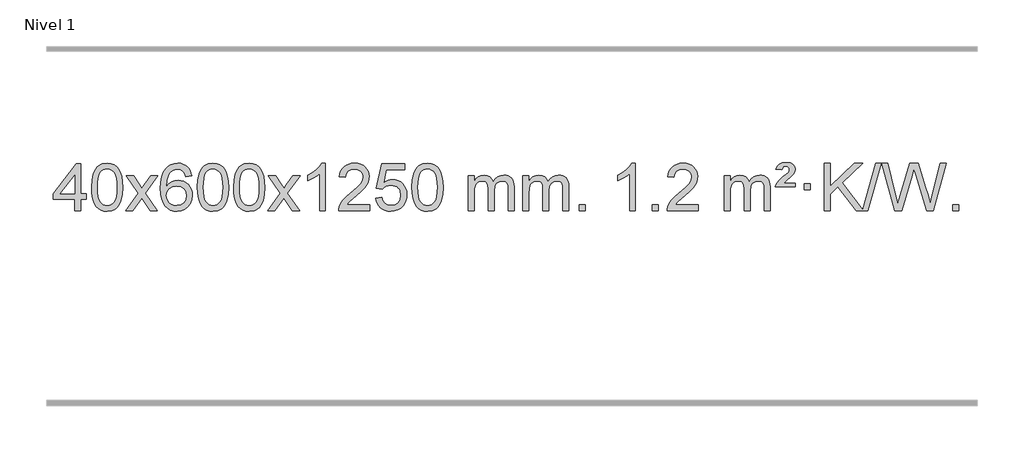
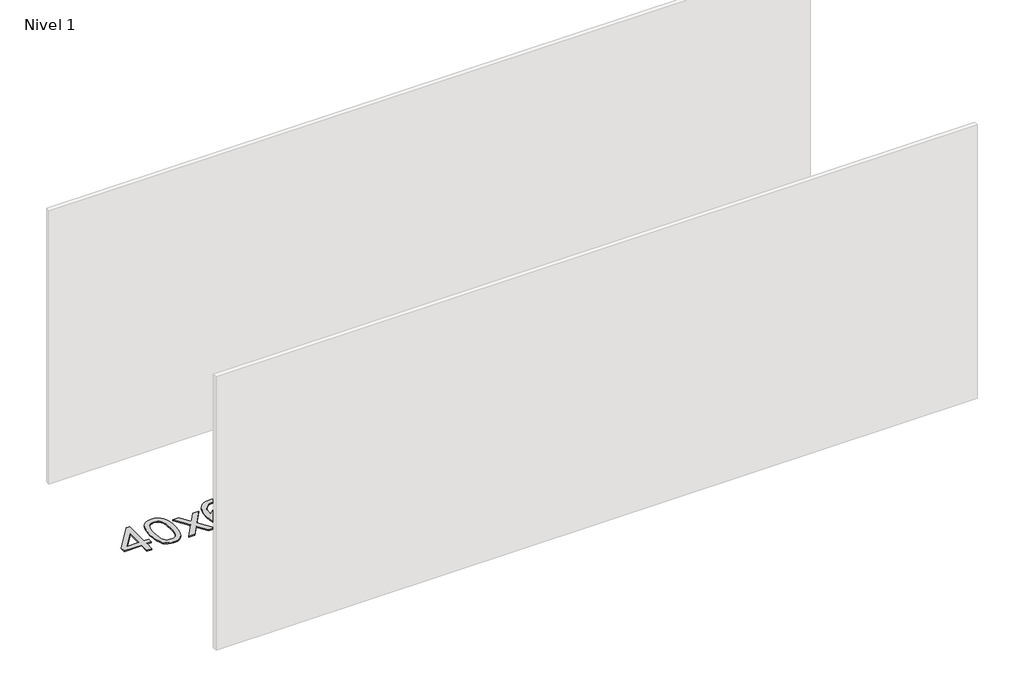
# One storey, part 6 of 6: 1 proxy.
"""IFC4 building model written with IfcOpenShell, lengths in millimetres."""

import ifcopenshell
import ifcopenshell.guid

model = None  # the IFC model being written
_history = None  # IfcOwnerHistory: only IFC2X3 demands one
_inside = {}  # id of a spatial element -> (the spatial element, [elements in it])
_under = {}  # id of a project, library or spatial element -> (it, [spatial elements below it])
_declared = {}  # id of a project -> (the project, [libraries it declares])
_typed = {}  # id of a type object -> (the type object, [elements of that type])
_made_of = {}  # id of a material, layer set ... -> (it, [elements and type objects made of it])


def new_model(schema):
    """Start an empty IFC model of exactly this schema.

    Asked for "IFC4X3", IfcOpenShell would pick the latest addendum, in which some entities
    have other attributes; the version numbers below select the first issue.
    IFC2X3 requires an IfcOwnerHistory on every rooted entity: one is made here for all.
    """
    global model, _history
    if schema == "IFC4X3":
        model = ifcopenshell.file(schema_version=(4, 3, 0, 0))
    else:
        model = ifcopenshell.file(schema=schema)
    _inside.clear()
    _under.clear()
    _declared.clear()
    _typed.clear()
    _made_of.clear()
    _history = None
    if model.schema == "IFC2X3":
        org = make("IfcOrganization", Name="unknown")
        user = make(
            "IfcPersonAndOrganization",
            ThePerson=make("IfcPerson", FamilyName="unknown"),
            TheOrganization=org,
        )
        app = make(
            "IfcApplication",
            ApplicationDeveloper=org,
            Version="unknown",
            ApplicationFullName="unknown",
            ApplicationIdentifier="unknown",
        )
        _history = make(
            "IfcOwnerHistory",
            OwningUser=user,
            OwningApplication=app,
            ChangeAction="ADDED",
            CreationDate=0,
        )
    return model


def make(cls, **values):
    """One entity of the class cls with the attributes given. An attribute that is None is left unset."""
    return model.create_entity(
        cls, **{name: value for name, value in values.items() if value is not None}
    )


def rooted(cls, **values):
    """An entity with a GlobalId (a new one), such as an element, a storey or a relation."""
    return make(cls, GlobalId=ifcopenshell.guid.new(), OwnerHistory=_history, **values)


def si_unit(unit_type, name, prefix=None):
    """IfcSIUnit, for example si_unit("LENGTHUNIT", "METRE", prefix="MILLI")."""
    return make("IfcSIUnit", UnitType=unit_type, Prefix=prefix, Name=name)


def assignment(units):
    """IfcUnitAssignment: the units of a project."""
    return None if units is None else make("IfcUnitAssignment", Units=units)


def point(xyz):
    """IfcCartesianPoint."""
    return None if xyz is None else make("IfcCartesianPoint", Coordinates=xyz)


def direction(xyz):
    """IfcDirection."""
    return None if xyz is None else make("IfcDirection", DirectionRatios=xyz)


def frame(location, z_axis=None, x_axis=None):
    """IfcAxis2Placement3D, a coordinate frame: its origin and axes. An axis left out is left unset."""
    return make(
        "IfcAxis2Placement3D",
        Location=point(location),
        Axis=direction(z_axis),
        RefDirection=direction(x_axis),
    )


def origin():
    """The frame at (0, 0, 0) with its axes left unset."""
    return frame((0.0, 0.0, 0.0))


def origin_with_axes():
    """The frame at (0, 0, 0) with the z axis (0, 0, 1) and the x axis (1, 0, 0) written out."""
    return frame((0.0, 0.0, 0.0), z_axis=(0.0, 0.0, 1.0), x_axis=(1.0, 0.0, 0.0))


def place(relative_to, where):
    """IfcLocalPlacement: puts the frame where relative to a parent placement (None: the world)."""
    return make(
        "IfcLocalPlacement", PlacementRelTo=relative_to, RelativePlacement=where
    )


def context(
    kind, dimensions, precision=None, world=None, true_north=None, identifier=None
):
    """IfcGeometricRepresentationContext, for example the 3D "Model" context."""
    return make(
        "IfcGeometricRepresentationContext",
        ContextIdentifier=identifier,
        ContextType=kind,
        CoordinateSpaceDimension=dimensions,
        Precision=precision,
        WorldCoordinateSystem=world,
        TrueNorth=true_north,
    )


def project(units=None, contexts=None):
    """IfcProject with its units and contexts."""
    return rooted(
        "IfcProject",
        Name="project",
        RepresentationContexts=contexts,
        UnitsInContext=assignment(units),
    )


def spatial(cls, under=None, at=None, **own):
    """A site, building, storey or space (cls), placed at a placement, below another one or the project."""
    s = rooted(cls, ObjectPlacement=at, **own)
    if under is not None:
        _under.setdefault(under.id(), (under, []))[1].append(s)
    return s


def polyline(points):
    """IfcPolyline through the points."""
    return make("IfcPolyline", Points=[point(p) for p in points])


def outline(outer, holes=None, kind="AREA"):
    """IfcArbitraryClosedProfileDef: a profile drawn as a closed curve; with holes, ...WithVoids."""
    if holes is None:
        return make("IfcArbitraryClosedProfileDef", ProfileType=kind, OuterCurve=outer)
    return make(
        "IfcArbitraryProfileDefWithVoids",
        ProfileType=kind,
        OuterCurve=outer,
        InnerCurves=holes,
    )


def extrude(swept, where, along, depth):
    """IfcExtrudedAreaSolid: the profile swept, set in the frame where, extruded along a direction by depth."""
    return make(
        "IfcExtrudedAreaSolid",
        SweptArea=swept,
        Position=where,
        ExtrudedDirection=direction(along),
        Depth=depth,
    )


def shape(context_of_items, identifier, shape_type, items):
    """IfcShapeRepresentation: the items that make up one representation, for example the "Body"."""
    return make(
        "IfcShapeRepresentation",
        ContextOfItems=context_of_items,
        RepresentationIdentifier=identifier,
        RepresentationType=shape_type,
        Items=items,
    )


def made_of(thing, what):
    """Note that an element or type object is made of a material, layer set ...; save() writes the relation."""
    if what is not None:
        _made_of.setdefault(what.id(), (what, []))[1].append(thing)
    return thing


def element(
    cls,
    number,
    at=None,
    inside=None,
    cuts=None,
    type_object=None,
    material=None,
    context=None,
    identifier="Body",
    shape_type=None,
    held_by="IfcProductDefinitionShape",
    body=None,
    shapes=None,
    **own,
):
    """One element of the class cls, such as IfcWall. Its Tag is "e" and its number.

    at: its placement. inside: the storey or other place that contains it. cuts: it is an
    opening in that element (IfcRelVoidsElement). A single representation is given by context,
    identifier, shape_type and body (its items); several are given by shapes. held_by: the class
    of the entity that holds the representations. save() writes the other relations.
    """
    e = rooted(cls, Tag="e%d" % number, ObjectPlacement=at, **own)
    if body is not None:
        shapes = [shape(context, identifier, shape_type, body)]
    if shapes is not None:
        e.Representation = make(held_by, Representations=shapes)
    if inside is not None:
        _inside.setdefault(inside.id(), (inside, []))[1].append(e)
    if cuts is not None:
        rooted(
            "IfcRelVoidsElement", RelatingBuildingElement=cuts, RelatedOpeningElement=e
        )
    if type_object is not None:
        _typed.setdefault(type_object.id(), (type_object, []))[1].append(e)
    return made_of(e, material)


def aggregate(whole, parts):
    """IfcRelAggregates: a whole, such as a stair, and the parts it consists of."""
    return rooted("IfcRelAggregates", RelatingObject=whole, RelatedObjects=parts)


def save(model, path):
    """Write the relations noted so far, then the file.

    IfcRelAggregates (storeys below a building ...), IfcRelContainedInSpatialStructure (elements
    in a storey), IfcRelDefinesByType, IfcRelAssociatesMaterial and IfcRelDeclares: one each for
    every whole, place, type object, material and project.
    """
    for whole, parts in _under.values():
        aggregate(whole, parts)
    for where, things in _inside.values():
        rooted(
            "IfcRelContainedInSpatialStructure",
            RelatedElements=things,
            RelatingStructure=where,
        )
    for kind, things in _typed.values():
        rooted("IfcRelDefinesByType", RelatedObjects=things, RelatingType=kind)
    for what, things in _made_of.values():
        rooted("IfcRelAssociatesMaterial", RelatedObjects=things, RelatingMaterial=what)
    for by, libraries in _declared.values():
        rooted("IfcRelDeclares", RelatingContext=by, RelatedDefinitions=libraries)
    model.write(path)


model = new_model("IFC4")

# Units and contexts
model_context = context("Model", 3, world=origin())
ifc_project = project(units=[si_unit("LENGTHUNIT", "METRE", prefix="MILLI")], contexts=[model_context])

# Site, building, storey
site = spatial("IfcSite", under=ifc_project)
building = spatial("IfcBuilding", under=site)
storey = spatial("IfcBuildingStorey", under=building, Name="Nivel 1", Elevation=0.0)

# Proxy
placement = place(None, origin())
element("IfcBuildingElementProxy", 1, Name="Texto de modelo 1", ObjectType="Texto de modelo 1", at=placement, inside=storey, context=model_context, shape_type="SweptSolid", body=[
    extrude(outline(polyline([(-6292.9282065, 2608.420547), (-6292.9282065, 2702.5983378), (-6475.0052686, 2702.5983378), (-6475.0052686, 2752.8264928), (-6280.3711677, 3003.9672682), (-6242.7000514, 3003.9672682), (-6242.7000514, 2752.8264928), (-6192.4718963, 2752.8264928), (-6192.4718963, 2702.5983378), (-6242.7000514, 2702.5983378), (-6242.7000514, 2608.420547), (-6292.9282065, 2608.420547)]), holes=[polyline([(-6292.9282065, 2752.8264928), (-6292.9282065, 2908.0236439), (-6413.2010934, 2752.8264928), (-6292.9282065, 2752.8264928)])]), origin_with_axes(), (0.0, 0.0, 1.0), 10.0),
    extrude(outline(polyline([(-6148.5222606, 2806.0958057), (-6144.8311779, 2870.4138412), (-6133.7579299, 2921.7088541), (-6115.4128811, 2960.7656593), (-6103.5548181, 2975.9990395), (-6089.9063961, 2988.3690716), (-6074.4216298, 2997.9401349), (-6057.0545339, 3004.7766086), (-6016.6733536, 3010.2457876), (-5985.722215, 3007.008426), (-5958.0084381, 2997.2963414), (-5934.8318724, 2981.4896783), (-5917.4923677, 2959.9685816), (-5904.3957686, 2932.9169922), (-5893.94792, 2900.5188512), (-5887.1053149, 2859.3773814), (-5884.8244465, 2806.0958057), (-5888.478741, 2742.1456523), (-5899.4416244, 2690.9732667), (-5917.6763087, 2651.8796734), (-5929.5067805, 2636.6003078), (-5943.1460055, 2624.1658964), (-5958.6491659, 2614.5304538), (-5976.071444, 2607.6479948), (-6016.6733536, 2602.1420276), (-6044.3380796, 2604.5332606), (-6068.8635459, 2611.7069595), (-6090.2497526, 2623.6631243), (-6108.4966996, 2640.4017551), (-6126.0078825, 2670.6600492), (-6138.5158704, 2708.3618224), (-6146.0206631, 2753.5070745), (-6148.5222606, 2806.0958057)]), holes=[polyline([(-6098.2941056, 2806.1939076), (-6096.8225776, 2762.5293805), (-6092.4079936, 2727.1851178), (-6085.0503537, 2700.1611196), (-6074.7496579, 2681.4573858), (-6062.290721, 2668.7317344), (-6048.4583579, 2659.6419835), (-6033.2525688, 2654.1881329), (-6016.6733536, 2652.3701827), (-6000.0941383, 2654.1942643), (-5984.8883492, 2659.6665089), (-5971.0559862, 2668.7869167), (-5958.5970493, 2681.5554876), (-5948.2963534, 2700.2898783), (-5940.9387135, 2727.3077451), (-5936.5241295, 2762.6090882), (-5935.0526016, 2806.1939076), (-5936.4750786, 2848.7026722), (-5940.7425098, 2883.4246011), (-5947.854895, 2910.3596945), (-5957.8122343, 2929.5079524), (-5970.0627048, 2942.8559375), (-5984.0544833, 2952.3902125), (-5999.78757, 2958.1107775), (-6017.2619648, 2960.0176325), (-6033.7553409, 2958.3376381), (-6048.7036126, 2953.2976548), (-6062.10678, 2944.8976825), (-6073.9648429, 2933.1377214), (-6084.6088953, 2912.291075), (-6092.2117899, 2884.1848906), (-6096.7735266, 2848.8191681), (-6098.2941056, 2806.1939076)])]), origin_with_axes(), (0.0, 0.0, 1.0), 10.0),
    extrude(outline(polyline([(-5859.7103689, 2608.420547), (-5752.3869282, 2756.7505675), (-5853.4318496, 2903.5109581), (-5793.0011005, 2903.5109581), (-5744.2444734, 2832.877615), (-5721.4848406, 2799.5229808), (-5701.7663657, 2826.7952993), (-5646.2407099, 2903.5109581), (-5585.8099608, 2903.5109581), (-5691.9561791, 2756.7505675), (-5589.7340354, 2608.420547), (-5650.1647845, 2608.420547), (-5711.6746541, 2697.5951426), (-5722.9563686, 2713.8800523), (-5799.2796199, 2608.420547), (-5859.7103689, 2608.420547)])), origin_with_axes(), (0.0, 0.0, 1.0), 10.0),
    extrude(outline(polyline([(-5300.9221437, 2903.5109581), (-5351.1502988, 2897.2324387), (-5359.2437027, 2922.125787), (-5370.1820607, 2939.1219352), (-5392.9662189, 2954.7937082), (-5420.5083176, 2960.0176325), (-5443.8565616, 2956.9764747), (-5465.8313794, 2947.8530012), (-5484.7037258, 2928.6372983), (-5500.1179814, 2902.1865829), (-5510.5290419, 2864.772984), (-5514.3918028, 2812.6686307), (-5494.2441322, 2836.1762902), (-5470.0988106, 2852.7432427), (-5443.3047386, 2862.565692), (-5415.2108169, 2865.8398418), (-5391.077758, 2863.601893), (-5368.8086346, 2856.8880466), (-5348.4034466, 2845.6983025), (-5329.862194, 2830.0326609), (-5314.4540698, 2810.8230894), (-5303.4482668, 2789.0015557), (-5296.844785, 2764.5680599), (-5294.6436244, 2737.5226018), (-5298.7884282, 2701.5560055), (-5311.2228396, 2668.213634), (-5330.9167891, 2639.9357713), (-5356.840207, 2619.1627013), (-5387.815871, 2606.397196), (-5422.6665587, 2602.1420276), (-5452.6090874, 2604.9624563), (-5479.6514797, 2613.4237421), (-5503.7937357, 2627.5258853), (-5525.0358552, 2647.2688857), (-5542.3539001, 2673.4866092), (-5554.7239322, 2707.0129217), (-5562.1459515, 2747.8478232), (-5564.6199579, 2795.9913136), (-5561.8731057, 2849.9657337), (-5553.632549, 2896.0306908), (-5539.8982878, 2934.1861851), (-5520.6703222, 2964.4322165), (-5499.8298072, 2984.4756538), (-5475.6660915, 2998.7923948), (-5448.179175, 3007.3824394), (-5417.3690579, 3010.2457876), (-5394.2354118, 3008.4738227), (-5373.2967949, 3003.1579278), (-5354.5532073, 2994.2981031), (-5338.0046489, 2981.8943485), (-5324.0987094, 2966.3635969), (-5313.2829788, 2948.1227814), (-5305.5574569, 2927.1719017), (-5300.9221437, 2903.5109581)]), holes=[polyline([(-5514.3918028, 2738.3074168), (-5511.485535, 2716.0505561), (-5502.7667318, 2694.7992395), (-5489.2286743, 2676.527767), (-5471.8646442, 2663.2104388), (-5450.9076332, 2655.0802467), (-5426.5906333, 2652.3701827), (-5393.4444655, 2657.9865145), (-5379.5293291, 2665.0069292), (-5367.3861575, 2674.8355099), (-5357.5361171, 2687.0737176), (-5350.500374, 2701.3230135), (-5344.8717794, 2735.8548701), (-5350.4267976, 2769.0010379), (-5357.3705702, 2782.6218688), (-5367.0918519, 2794.274531), (-5379.2718117, 2803.6095366), (-5393.5916183, 2810.2773978), (-5428.6507725, 2815.6116867), (-5461.7478893, 2810.2773978), (-5489.4248781, 2794.274531), (-5500.3479076, 2782.7751529), (-5508.1500716, 2769.6141746), (-5512.83137, 2754.7915958), (-5514.3918028, 2738.3074168)])]), origin_with_axes(), (0.0, 0.0, 1.0), 10.0),
    extrude(outline(polyline([(-5250.6939887, 2806.0958057), (-5247.002906, 2870.4138412), (-5235.9296579, 2921.7088541), (-5217.5846091, 2960.7656593), (-5205.7265461, 2975.9990395), (-5192.0781241, 2988.3690716), (-5176.5933578, 2997.9401349), (-5159.2262619, 3004.7766086), (-5118.8450816, 3010.2457876), (-5087.8939431, 3007.008426), (-5060.1801661, 2997.2963414), (-5037.0036004, 2981.4896783), (-5019.6640957, 2959.9685816), (-5006.5674967, 2932.9169922), (-4996.119648, 2900.5188512), (-4989.2770429, 2859.3773814), (-4986.9961745, 2806.0958057), (-4990.650469, 2742.1456523), (-5001.6133525, 2690.9732667), (-5019.8480367, 2651.8796734), (-5031.6785085, 2636.6003078), (-5045.3177335, 2624.1658964), (-5060.8208939, 2614.5304538), (-5078.2431721, 2607.6479948), (-5118.8450816, 2602.1420276), (-5146.5098076, 2604.5332606), (-5171.035274, 2611.7069595), (-5192.4214806, 2623.6631243), (-5210.6684276, 2640.4017551), (-5228.1796106, 2670.6600492), (-5240.6875984, 2708.3618224), (-5248.1923911, 2753.5070745), (-5250.6939887, 2806.0958057)]), holes=[polyline([(-5200.4658336, 2806.1939076), (-5198.9943056, 2762.5293805), (-5194.5797217, 2727.1851178), (-5187.2220818, 2700.1611196), (-5176.9213859, 2681.4573858), (-5164.462449, 2668.7317344), (-5150.630086, 2659.6419835), (-5135.4242968, 2654.1881329), (-5118.8450816, 2652.3701827), (-5102.2658663, 2654.1942643), (-5087.0600772, 2659.6665089), (-5073.2277142, 2668.7869167), (-5060.7687773, 2681.5554876), (-5050.4680814, 2700.2898783), (-5043.1104415, 2727.3077451), (-5038.6958576, 2762.6090882), (-5037.2243296, 2806.1939076), (-5038.6468066, 2848.7026722), (-5042.9142378, 2883.4246011), (-5050.026623, 2910.3596945), (-5059.9839624, 2929.5079524), (-5072.2344328, 2942.8559375), (-5086.2262114, 2952.3902125), (-5101.959298, 2958.1107775), (-5119.4336928, 2960.0176325), (-5135.9270689, 2958.3376381), (-5150.8753406, 2953.2976548), (-5164.278508, 2944.8976825), (-5176.136571, 2933.1377214), (-5186.7806234, 2912.291075), (-5194.3835179, 2884.1848906), (-5198.9452547, 2848.8191681), (-5200.4658336, 2806.1939076)])]), origin_with_axes(), (0.0, 0.0, 1.0), 10.0),
    extrude(outline(polyline([(-4943.0465388, 2806.0958057), (-4939.3554561, 2870.4138412), (-4928.2822081, 2921.7088541), (-4909.9371593, 2960.7656593), (-4898.0790963, 2975.9990395), (-4884.4306743, 2988.3690716), (-4868.945908, 2997.9401349), (-4851.5788121, 3004.7766086), (-4811.1976318, 3010.2457876), (-4780.2464932, 3007.008426), (-4752.5327163, 2997.2963414), (-4729.3561506, 2981.4896783), (-4712.0166459, 2959.9685816), (-4698.9200468, 2932.9169922), (-4688.4721982, 2900.5188512), (-4681.6295931, 2859.3773814), (-4679.3487247, 2806.0958057), (-4683.0030192, 2742.1456523), (-4693.9659026, 2690.9732667), (-4712.2005869, 2651.8796734), (-4724.0310587, 2636.6003078), (-4737.6702837, 2624.1658964), (-4753.1734441, 2614.5304538), (-4770.5957222, 2607.6479948), (-4811.1976318, 2602.1420276), (-4838.8623578, 2604.5332606), (-4863.3878241, 2611.7069595), (-4884.7740308, 2623.6631243), (-4903.0209778, 2640.4017551), (-4920.5321607, 2670.6600492), (-4933.0401486, 2708.3618224), (-4940.5449413, 2753.5070745), (-4943.0465388, 2806.0958057)]), holes=[polyline([(-4892.8183838, 2806.1939076), (-4891.3468558, 2762.5293805), (-4886.9322718, 2727.1851178), (-4879.5746319, 2700.1611196), (-4869.2739361, 2681.4573858), (-4856.8149992, 2668.7317344), (-4842.9826361, 2659.6419835), (-4827.776847, 2654.1881329), (-4811.1976318, 2652.3701827), (-4794.6184165, 2654.1942643), (-4779.4126274, 2659.6665089), (-4765.5802644, 2668.7869167), (-4753.1213275, 2681.5554876), (-4742.8206316, 2700.2898783), (-4735.4629917, 2727.3077451), (-4731.0484077, 2762.6090882), (-4729.5768798, 2806.1939076), (-4730.9993568, 2848.7026722), (-4735.266788, 2883.4246011), (-4742.3791732, 2910.3596945), (-4752.3365125, 2929.5079524), (-4764.586983, 2942.8559375), (-4778.5787615, 2952.3902125), (-4794.3118482, 2958.1107775), (-4811.786243, 2960.0176325), (-4828.2796191, 2958.3376381), (-4843.2278908, 2953.2976548), (-4856.6310582, 2944.8976825), (-4868.4891211, 2933.1377214), (-4879.1331735, 2912.291075), (-4886.7360681, 2884.1848906), (-4891.2978048, 2848.8191681), (-4892.8183838, 2806.1939076)])]), origin_with_axes(), (0.0, 0.0, 1.0), 10.0),
    extrude(outline(polyline([(-4654.2346472, 2608.420547), (-4546.9112064, 2756.7505675), (-4647.9561278, 2903.5109581), (-4587.5253787, 2903.5109581), (-4538.7687516, 2832.877615), (-4516.0091188, 2799.5229808), (-4496.2906439, 2826.7952993), (-4440.7649881, 2903.5109581), (-4380.334239, 2903.5109581), (-4486.4804574, 2756.7505675), (-4384.2583136, 2608.420547), (-4444.6890627, 2608.420547), (-4506.1989323, 2697.5951426), (-4517.4806468, 2713.8800523), (-4593.8038981, 2608.420547), (-4654.2346472, 2608.420547)])), origin_with_axes(), (0.0, 0.0, 1.0), 10.0),
    extrude(outline(polyline([(-4164.5101352, 2608.420547), (-4214.7382902, 2608.420547), (-4214.7382902, 2921.5617013), (-4235.707564, 2904.6023413), (-4262.317695, 2887.6675068), (-4315.1946004, 2862.3081746), (-4315.1946004, 2909.7894775), (-4275.7453878, 2931.2492605), (-4241.5691504, 2956.780271), (-4214.6279257, 2983.9299622), (-4196.8837508, 3010.2457876), (-4164.5101352, 3010.2457876), (-4164.5101352, 2608.420547)])), origin_with_axes(), (0.0, 0.0, 1.0), 10.0),
    extrude(outline(polyline([(-3787.7989721, 2658.6487021), (-3787.7989721, 2608.420547), (-4051.4967863, 2608.420547), (-4050.3931403, 2626.1034082), (-4046.1011837, 2643.0505055), (-4033.7158232, 2670.1143576), (-4015.5915035, 2696.3688693), (-3989.37378, 2723.8496544), (-3952.7082078, 2754.5923264), (-3898.5069272, 2802.7358169), (-3865.9861588, 2838.2732176), (-3849.7257746, 2867.115166), (-3844.3056466, 2895.1722995), (-3849.4192063, 2920.3231653), (-3864.7598855, 2941.2311253), (-3888.3411214, 2955.3210057), (-3918.1763512, 2960.0176325), (-3949.5076345, 2955.4313703), (-3973.8491598, 2941.6725837), (-3989.557721, 2919.8203932), (-3994.9901118, 2890.9539193), (-4045.2182669, 2897.2324387), (-4040.8987191, 2923.161988), (-4033.0413728, 2945.8173875), (-4021.646228, 2965.1986373), (-4006.7132847, 2981.3057373), (-3988.5858994, 2993.9670093), (-3967.6074286, 3003.010775), (-3943.7778724, 3008.4370345), (-3917.0972307, 3010.2457876), (-3890.1774657, 3008.2346994), (-3866.2191508, 3002.2014346), (-3845.2222859, 2992.1459934), (-3827.1868711, 2978.0683758), (-3812.7015175, 2961.0109139), (-3802.3548364, 2942.0159402), (-3796.1468277, 2921.0834547), (-3794.0774915, 2898.2134573), (-3796.3093089, 2874.1907631), (-3803.0047612, 2850.5850017), (-3814.8873497, 2826.5745701), (-3832.6805755, 2801.3378653), (-3861.0442774, 2771.2083299), (-3904.6382938, 2732.5194067), (-3962.4202925, 2684.204238), (-3985.0818234, 2658.6487021), (-3787.7989721, 2658.6487021)])), origin_with_axes(), (0.0, 0.0, 1.0), 10.0),
    extrude(outline(polyline([(-3737.570817, 2715.1553765), (-3687.342662, 2721.4338959), (-3678.1210866, 2691.2798351), (-3662.0323807, 2669.6851619), (-3639.1501206, 2656.6989275), (-3609.5478827, 2652.3701827), (-3590.418019, 2653.8754332), (-3573.5444981, 2658.3911847), (-3558.9273202, 2665.9174372), (-3546.5664851, 2676.4541906), (-3536.7379045, 2689.480279), (-3529.7174898, 2704.4745359), (-3524.101158, 2740.3675559), (-3529.3618705, 2774.1636486), (-3535.9377612, 2788.0818507), (-3545.1440081, 2800.0134901), (-3557.0112681, 2809.5845533), (-3571.5701981, 2816.4210271), (-3608.7630678, 2821.8902061), (-3633.1291186, 2819.7074396), (-3652.8598563, 2813.1591401), (-3668.6174684, 2803.1282243), (-3681.0641426, 2790.4976092), (-3731.2922977, 2796.7761285), (-3687.342662, 3003.9672682), (-3492.708561, 3003.9672682), (-3492.708561, 2953.7391131), (-3646.7284897, 2953.7391131), (-3668.2127982, 2843.080209), (-3650.4870174, 2855.7844006), (-3632.332041, 2864.8588231), (-3613.7478688, 2870.3034766), (-3594.734501, 2872.1183612), (-3570.273414, 2869.8681496), (-3547.8050212, 2863.117515), (-3527.3293225, 2851.8664573), (-3508.8463179, 2836.1149766), (-3493.5454926, 2816.8256973), (-3482.6163316, 2794.961244), (-3476.0588351, 2770.5216168), (-3473.8730029, 2743.5068156), (-3475.8411716, 2717.4852958), (-3481.7456776, 2693.2786606), (-3491.586521, 2670.8869098), (-3505.3637017, 2650.3100435), (-3526.2348735, 2629.2365366), (-3550.5886616, 2614.1840316), (-3578.4250659, 2605.1525286), (-3609.7440864, 2602.1420276), (-3635.6644387, 2604.0764738), (-3659.077062, 2609.8798123), (-3679.9819564, 2619.552043), (-3698.3791218, 2633.0931662), (-3713.6860785, 2649.8287312), (-3725.3203466, 2669.084288), (-3733.2819261, 2690.8598364), (-3737.570817, 2715.1553765)])), origin_with_axes(), (0.0, 0.0, 1.0), 10.0),
    extrude(outline(polyline([(-3429.9233672, 2806.0958057), (-3426.2322845, 2870.4138412), (-3415.1590365, 2921.7088541), (-3396.8139876, 2960.7656593), (-3384.9559247, 2975.9990395), (-3371.3075026, 2988.3690716), (-3355.8227363, 2997.9401349), (-3338.4556405, 3004.7766086), (-3298.0744601, 3010.2457876), (-3267.1233216, 3007.008426), (-3239.4095446, 2997.2963414), (-3216.2329789, 2981.4896783), (-3198.8934742, 2959.9685816), (-3185.7968752, 2932.9169922), (-3175.3490265, 2900.5188512), (-3168.5064214, 2859.3773814), (-3166.2255531, 2806.0958057), (-3169.8798475, 2742.1456523), (-3180.842731, 2690.9732667), (-3199.0774152, 2651.8796734), (-3210.9078871, 2636.6003078), (-3224.547112, 2624.1658964), (-3240.0502724, 2614.5304538), (-3257.4725506, 2607.6479948), (-3298.0744601, 2602.1420276), (-3325.7391862, 2604.5332606), (-3350.2646525, 2611.7069595), (-3371.6508592, 2623.6631243), (-3389.8978061, 2640.4017551), (-3407.4089891, 2670.6600492), (-3419.9169769, 2708.3618224), (-3427.4217696, 2753.5070745), (-3429.9233672, 2806.0958057)]), holes=[polyline([(-3379.6952121, 2806.1939076), (-3378.2236842, 2762.5293805), (-3373.8091002, 2727.1851178), (-3366.4514603, 2700.1611196), (-3356.1507644, 2681.4573858), (-3343.6918275, 2668.7317344), (-3329.8594645, 2659.6419835), (-3314.6536754, 2654.1881329), (-3298.0744601, 2652.3701827), (-3281.4952449, 2654.1942643), (-3266.2894558, 2659.6665089), (-3252.4570927, 2668.7869167), (-3239.9981558, 2681.5554876), (-3229.69746, 2700.2898783), (-3222.3398201, 2727.3077451), (-3217.9252361, 2762.6090882), (-3216.4537081, 2806.1939076), (-3217.8761852, 2848.7026722), (-3222.1436163, 2883.4246011), (-3229.2560016, 2910.3596945), (-3239.2133409, 2929.5079524), (-3251.4638113, 2942.8559375), (-3265.4555899, 2952.3902125), (-3281.1886766, 2958.1107775), (-3298.6630713, 2960.0176325), (-3315.1564474, 2958.3376381), (-3330.1047192, 2953.2976548), (-3343.5078865, 2944.8976825), (-3355.3659495, 2933.1377214), (-3366.0100019, 2912.291075), (-3373.6128965, 2884.1848906), (-3378.1746332, 2848.8191681), (-3379.6952121, 2806.1939076)])]), origin_with_axes(), (0.0, 0.0, 1.0), 10.0),
    extrude(outline(polyline([(-2952.755894, 2608.420547), (-2952.755894, 2903.5109581), (-2902.5277389, 2903.5109581), (-2902.5277389, 2854.9505347), (-2887.4200517, 2877.2564463), (-2867.9958823, 2894.7308411), (-2844.9174185, 2906.0248184), (-2818.8468478, 2909.7894775), (-2790.9123416, 2905.951242), (-2768.5205908, 2894.4365355), (-2751.7942228, 2876.0056476), (-2740.8558648, 2851.4188676), (-2722.5476041, 2876.9560094), (-2701.6641696, 2895.196825), (-2678.205561, 2906.1413143), (-2652.1717785, 2909.7894775), (-2632.0639617, 2908.2719642), (-2614.414823, 2903.7194245), (-2599.2243623, 2896.1318584), (-2586.4925796, 2885.5092658), (-2576.4279413, 2871.7290194), (-2569.238914, 2854.6684918), (-2564.9254976, 2834.3276832), (-2563.4876922, 2810.7065934), (-2563.4876922, 2608.420547), (-2613.7158472, 2608.420547), (-2613.7158472, 2789.124183), (-2614.8808069, 2814.1769469), (-2618.3756858, 2831.0627305), (-2624.9239854, 2842.6264879), (-2635.2492067, 2851.7131732), (-2648.5297467, 2857.5992851), (-2663.9440023, 2859.5613224), (-2691.1550072, 2854.5336018), (-2713.3382915, 2839.45044), (-2721.9436645, 2827.8805512), (-2728.0903595, 2813.2817674), (-2733.0077155, 2774.9975144), (-2733.0077155, 2608.420547), (-2783.2358706, 2608.420547), (-2783.2358706, 2794.7159894), (-2786.1421384, 2823.1164794), (-2794.8609417, 2843.3745146), (-2810.2016209, 2855.5146204), (-2832.9735164, 2859.5613224), (-2852.3241093, 2856.8635211), (-2870.1541233, 2848.7701172), (-2884.8694032, 2835.4773144), (-2894.8757934, 2817.1813165), (-2900.6147525, 2791.7974589), (-2902.5277389, 2757.2410768), (-2902.5277389, 2608.420547), (-2952.755894, 2608.420547)])), origin_with_axes(), (0.0, 0.0, 1.0), 10.0),
    extrude(outline(polyline([(-2488.1454596, 2608.420547), (-2488.1454596, 2903.5109581), (-2437.9173045, 2903.5109581), (-2437.9173045, 2854.9505347), (-2422.8096172, 2877.2564463), (-2403.3854479, 2894.7308411), (-2380.306984, 2906.0248184), (-2354.2364133, 2909.7894775), (-2326.3019071, 2905.951242), (-2303.9101564, 2894.4365355), (-2287.1837883, 2876.0056476), (-2276.2454303, 2851.4188676), (-2257.9371697, 2876.9560094), (-2237.0537351, 2895.196825), (-2213.5951266, 2906.1413143), (-2187.561344, 2909.7894775), (-2167.4535273, 2908.2719642), (-2149.8043886, 2903.7194245), (-2134.6139279, 2896.1318584), (-2121.8821452, 2885.5092658), (-2111.8175069, 2871.7290194), (-2104.6284796, 2854.6684918), (-2100.3150632, 2834.3276832), (-2098.8772577, 2810.7065934), (-2098.8772577, 2608.420547), (-2149.1054128, 2608.420547), (-2149.1054128, 2789.124183), (-2150.2703724, 2814.1769469), (-2153.7652514, 2831.0627305), (-2160.3135509, 2842.6264879), (-2170.6387722, 2851.7131732), (-2183.9193123, 2857.5992851), (-2199.3335679, 2859.5613224), (-2226.5445728, 2854.5336018), (-2248.7278571, 2839.45044), (-2257.3332301, 2827.8805512), (-2263.4799251, 2813.2817674), (-2268.3972811, 2774.9975144), (-2268.3972811, 2608.420547), (-2318.6254362, 2608.420547), (-2318.6254362, 2794.7159894), (-2321.5317039, 2823.1164794), (-2330.2505072, 2843.3745146), (-2345.5911864, 2855.5146204), (-2368.3630819, 2859.5613224), (-2387.7136749, 2856.8635211), (-2405.5436889, 2848.7701172), (-2420.2589687, 2835.4773144), (-2430.265359, 2817.1813165), (-2436.0043181, 2791.7974589), (-2437.9173045, 2757.2410768), (-2437.9173045, 2608.420547), (-2488.1454596, 2608.420547)])), origin_with_axes(), (0.0, 0.0, 1.0), 10.0),
    extrude(outline(polyline([(-2010.9779863, 2608.420547), (-2010.9779863, 2658.6487021), (-1960.7498313, 2658.6487021), (-1960.7498313, 2608.420547), (-2010.9779863, 2608.420547)])), origin_with_axes(), (0.0, 0.0, 1.0), 10.0),
    extrude(outline(polyline([(-1533.8105131, 2608.420547), (-1584.0386682, 2608.420547), (-1584.0386682, 2921.5617013), (-1605.0079419, 2904.6023413), (-1631.6180729, 2887.6675068), (-1684.4949784, 2862.3081746), (-1684.4949784, 2909.7894775), (-1645.0457657, 2931.2492605), (-1610.8695284, 2956.780271), (-1583.9283036, 2983.9299622), (-1566.1841287, 3010.2457876), (-1533.8105131, 3010.2457876), (-1533.8105131, 2608.420547)])), origin_with_axes(), (0.0, 0.0, 1.0), 10.0),
    extrude(outline(polyline([(-1389.4045673, 2608.420547), (-1389.4045673, 2658.6487021), (-1339.1764122, 2658.6487021), (-1339.1764122, 2608.420547), (-1389.4045673, 2608.420547)])), origin_with_axes(), (0.0, 0.0, 1.0), 10.0),
    extrude(outline(polyline([(-1000.1363655, 2658.6487021), (-1000.1363655, 2608.420547), (-1263.8341796, 2608.420547), (-1262.7305336, 2626.1034082), (-1258.438577, 2643.0505055), (-1246.0532165, 2670.1143576), (-1227.9288969, 2696.3688693), (-1201.7111734, 2723.8496544), (-1165.0456012, 2754.5923264), (-1110.8443205, 2802.7358169), (-1078.3235522, 2838.2732176), (-1062.063168, 2867.115166), (-1056.6430399, 2895.1722995), (-1061.7565997, 2920.3231653), (-1077.0972789, 2941.2311253), (-1100.6785147, 2955.3210057), (-1130.5137446, 2960.0176325), (-1161.8450278, 2955.4313703), (-1186.1865532, 2941.6725837), (-1201.8951144, 2919.8203932), (-1207.3275051, 2890.9539193), (-1257.5556602, 2897.2324387), (-1253.2361125, 2923.161988), (-1245.3787662, 2945.8173875), (-1233.9836214, 2965.1986373), (-1219.0506781, 2981.3057373), (-1200.9232927, 2993.9670093), (-1179.944822, 3003.010775), (-1156.1152657, 3008.4370345), (-1129.434624, 3010.2457876), (-1102.514859, 3008.2346994), (-1078.5565441, 3002.2014346), (-1057.5596792, 2992.1459934), (-1039.5242644, 2978.0683758), (-1025.0389109, 2961.0109139), (-1014.6922297, 2942.0159402), (-1008.4842211, 2921.0834547), (-1006.4148848, 2898.2134573), (-1008.6467023, 2874.1907631), (-1015.3421546, 2850.5850017), (-1027.224743, 2826.5745701), (-1045.0179689, 2801.3378653), (-1073.3816707, 2771.2083299), (-1116.9756871, 2732.5194067), (-1174.7576858, 2684.204238), (-1197.4192167, 2658.6487021), (-1000.1363655, 2658.6487021)])), origin_with_axes(), (0.0, 0.0, 1.0), 10.0),
    extrude(outline(polyline([(-780.388187, 2608.420547), (-780.388187, 2903.5109581), (-730.1600319, 2903.5109581), (-730.1600319, 2854.9505347), (-715.0523447, 2877.2564463), (-695.6281753, 2894.7308411), (-672.5497115, 2906.0248184), (-646.4791408, 2909.7894775), (-618.5446346, 2905.951242), (-596.1528838, 2894.4365355), (-579.4265158, 2876.0056476), (-568.4881578, 2851.4188676), (-550.1798972, 2876.9560094), (-529.2964626, 2895.196825), (-505.837854, 2906.1413143), (-479.8040715, 2909.7894775), (-459.6962548, 2908.2719642), (-442.047116, 2903.7194245), (-426.8566553, 2896.1318584), (-414.1248726, 2885.5092658), (-404.0602344, 2871.7290194), (-396.871207, 2854.6684918), (-392.5577906, 2834.3276832), (-391.1199852, 2810.7065934), (-391.1199852, 2608.420547), (-441.3481403, 2608.420547), (-441.3481403, 2789.124183), (-442.5130999, 2814.1769469), (-446.0079789, 2831.0627305), (-452.5562784, 2842.6264879), (-462.8814997, 2851.7131732), (-476.1620397, 2857.5992851), (-491.5762953, 2859.5613224), (-518.7873002, 2854.5336018), (-540.9705845, 2839.45044), (-549.5759576, 2827.8805512), (-555.7226526, 2813.2817674), (-560.6400086, 2774.9975144), (-560.6400086, 2608.420547), (-610.8681636, 2608.420547), (-610.8681636, 2794.7159894), (-613.7744314, 2823.1164794), (-622.4932347, 2843.3745146), (-637.8339139, 2855.5146204), (-660.6058094, 2859.5613224), (-679.9564023, 2856.8635211), (-697.7864164, 2848.7701172), (-712.5016962, 2835.4773144), (-722.5080864, 2817.1813165), (-728.2470456, 2791.7974589), (-730.1600319, 2757.2410768), (-730.1600319, 2608.420547), (-780.388187, 2608.420547)])), origin_with_axes(), (0.0, 0.0, 1.0), 10.0),
    extrude(outline(polyline([(-347.1703495, 2809.3331673), (-343.3443767, 2825.1520931), (-335.0057182, 2841.0200698), (-313.4968842, 2866.1586728), (-281.5402016, 2893.8969753), (-237.3943621, 2931.273786), (-230.2574514, 2942.8007552), (-227.8784812, 2954.6220299), (-229.7669421, 2966.7130848), (-235.4323248, 2976.4987459), (-244.801053, 2982.973469), (-257.7995501, 2985.1317101), (-270.2339616, 2983.5130293), (-279.0876549, 2978.656987), (-285.5133271, 2969.1901569), (-290.663675, 2953.7391131), (-340.8918301, 2960.0176325), (-330.051574, 2985.2298119), (-313.4233078, 3002.7900458), (-289.6581309, 3013.0907417), (-257.4071427, 3016.524307), (-221.6244873, 3012.3917659), (-196.8782917, 2999.9941427), (-182.4573175, 2981.6613566), (-177.6503261, 2959.7233269), (-181.746079, 2936.8165414), (-194.0333376, 2915.1850801), (-214.561153, 2895.3685032), (-251.0305214, 2867.3113697), (-276.6351083, 2840.7257642), (-177.6503261, 2840.7257642), (-177.6503261, 2809.3331673), (-347.1703495, 2809.3331673)])), origin_with_axes(), (0.0, 0.0, 1.0), 10.0),
    extrude(outline(polyline([(-102.3080935, 2784.2190898), (-102.3080935, 2834.4472448), (-52.0799384, 2834.4472448), (-52.0799384, 2784.2190898), (-102.3080935, 2784.2190898)])), origin_with_axes(), (0.0, 0.0, 1.0), 10.0),
    extrude(outline(polyline([(338.5616895, 2608.420547), (185.1303721, 2811.0990009), (117.440085, 2746.5479735), (117.440085, 2608.420547), (67.2119299, 2608.420547), (67.2119299, 3010.2457876), (117.440085, 3010.2457876), (117.440085, 2813.5515475), (323.4540023, 3010.2457876), (393.6949379, 3010.2457876), (220.7413492, 2845.0422463), (395.3949591, 2614.4650668), (506.7082868, 3010.2457876), (552.0313486, 3010.2457876), (439.0179997, 2608.420547), (399.9734572, 2608.420547), (393.6949379, 2608.420547), (338.5616895, 2608.420547)])), origin_with_axes(), (0.0, 0.0, 1.0), 10.0),
    extrude(outline(polyline([(666.5162255, 2608.420547), (556.9364419, 3010.2457876), (608.7342268, 3010.2457876), (672.3042355, 2746.155566), (691.9246086, 2664.6329159), (712.9184078, 2736.7377869), (792.5771225, 3010.2457876), (867.2326421, 3010.2457876), (925.1127426, 2811.9819177), (949.9079891, 2738.4055186), (968.1794615, 2664.6329159), (987.2112234, 2743.8011212), (1051.3698434, 3010.2457876), (1103.1676283, 3010.2457876), (993.4897428, 2608.420547), (939.8280224, 2608.420547), (843.4919906, 2918.4224416), (830.0520351, 2961.6853642), (814.9443478, 2909.5932737), (727.1431783, 2608.420547), (666.5162255, 2608.420547)])), origin_with_axes(), (0.0, 0.0, 1.0), 10.0),
    extrude(outline(polyline([(1159.6743028, 2608.420547), (1159.6743028, 2658.6487021), (1209.9024578, 2658.6487021), (1209.9024578, 2608.420547), (1159.6743028, 2608.420547)])), origin_with_axes(), (0.0, 0.0, 1.0), 10.0),
])

save(model, "model.ifc")
